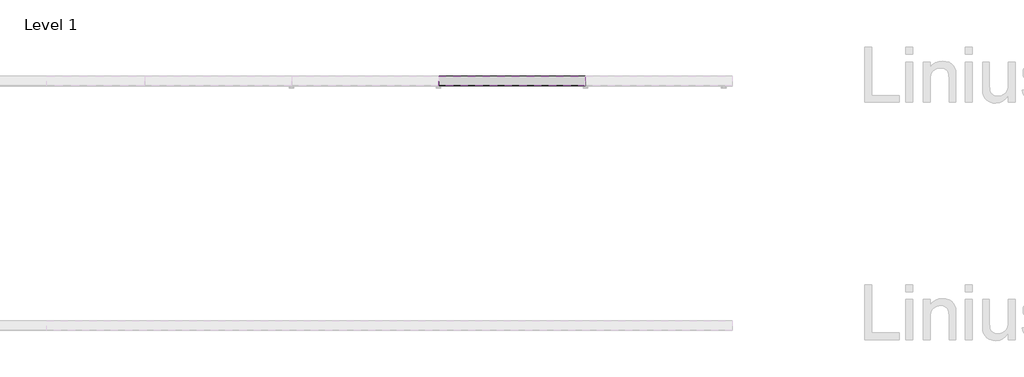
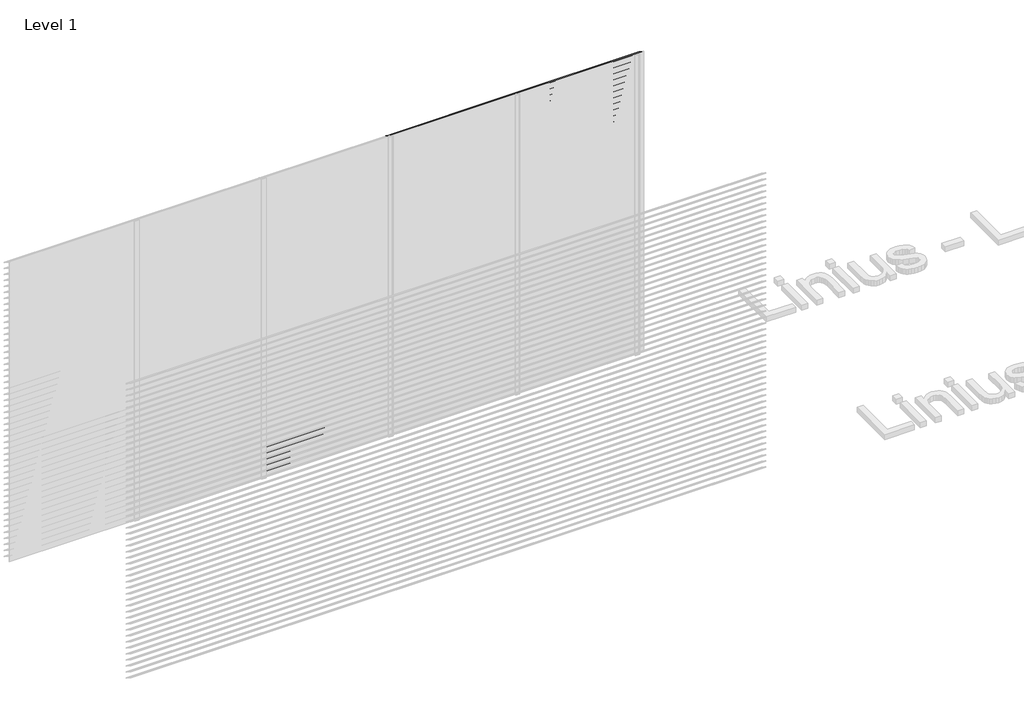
# One storey, part 74 of 153: 84 proxies.
"""IFC4 building model written with IfcOpenShell, lengths in millimetres."""

from ifc_helpers import new_model, si_unit, frame, origin, place, context, project, spatial, polyline, outline, extrude, element, save

model = new_model("IFC4")

# Units and contexts
model_context = context("Model", 3, world=origin())
ifc_project = project(units=[si_unit("LENGTHUNIT", "METRE", prefix="MILLI")], contexts=[model_context])

# Site, building, storey
site = spatial("IfcSite", under=ifc_project)
building = spatial("IfcBuilding", under=site)
storey = spatial("IfcBuildingStorey", under=building, Name="Level 1", Elevation=0.0)

# Proxies
placement = place(None, origin())
element("IfcBuildingElementProxy", 1, Name="Wall Sweeps", at=placement, inside=storey, context=model_context, shape_type="SweptSolid", body=[
    extrude(outline(polyline([(44061.0540136, 246.0), (44061.0540136, 240.0), (44059.8040136, 240.7216933), (44059.8040136, 245.2538091), (43983.0540136, 293.9915103), (43983.0540136, 300.0), (43984.3040136, 300.0), (43984.3040136, 294.7377012), (44061.0540136, 246.0)])), frame((2866.6208097, 0.0, 0.0), z_axis=(1.0, 0.0, 0.0), x_axis=(0.0, 1.0, 0.0)), (0.0, 0.0, 1.0), 1199.9999999),
])
element("IfcBuildingElementProxy", 2, Name="Wall Sweeps", at=placement, inside=storey, context=model_context, shape_type="SweptSolid", body=[
    extrude(outline(polyline([(44061.0540136, 186.0), (44061.0540136, 180.0), (44059.8040136, 180.7216933), (44059.8040136, 185.2538091), (43983.0540136, 233.9915103), (43983.0540136, 240.0), (43984.3040136, 240.0), (43984.3040136, 234.7377012), (44061.0540136, 186.0)])), frame((2866.6208097, 0.0, 0.0), z_axis=(1.0, 0.0, 0.0), x_axis=(0.0, 1.0, 0.0)), (0.0, 0.0, 1.0), 1199.9999999),
])
element("IfcBuildingElementProxy", 3, Name="Wall Sweeps", at=placement, inside=storey, context=model_context, shape_type="SweptSolid", body=[
    extrude(outline(polyline([(44061.0540136, 126.0), (44061.0540136, 120.0), (44059.8040136, 120.7216933), (44059.8040136, 125.2538091), (43983.0540136, 173.9915103), (43983.0540136, 180.0), (43984.3040136, 180.0), (43984.3040136, 174.7377012), (44061.0540136, 126.0)])), frame((2866.6208097, 0.0, 0.0), z_axis=(1.0, 0.0, 0.0), x_axis=(0.0, 1.0, 0.0)), (0.0, 0.0, 1.0), 1199.9999999),
])
element("IfcBuildingElementProxy", 4, Name="Wall Sweeps", at=placement, inside=storey, context=model_context, shape_type="SweptSolid", body=[
    extrude(outline(polyline([(44061.0540136, 66.0), (44061.0540136, 60.0), (44059.8040136, 60.7216933), (44059.8040136, 65.2538091), (43983.0540136, 113.9915103), (43983.0540136, 120.0), (43984.3040136, 120.0), (43984.3040136, 114.7377012), (44061.0540136, 66.0)])), frame((2866.6208097, 0.0, 0.0), z_axis=(1.0, 0.0, 0.0), x_axis=(0.0, 1.0, 0.0)), (0.0, 0.0, 1.0), 1199.9999999),
])
element("IfcBuildingElementProxy", 5, Name="Wall Sweeps", at=placement, inside=storey, context=model_context, shape_type="SweptSolid", body=[
    extrude(outline(polyline([(44061.0540136, 6.0), (44061.0540136, 0.0), (44059.8040136, 0.7216933), (44059.8040136, 5.2538091), (43983.0540136, 53.9915103), (43983.0540136, 60.0), (43984.3040136, 60.0), (43984.3040136, 54.7377012), (44061.0540136, 6.0)])), frame((2866.6208097, 0.0, 0.0), z_axis=(1.0, 0.0, 0.0), x_axis=(0.0, 1.0, 0.0)), (0.0, 0.0, 1.0), 1199.9999999),
])
element("IfcBuildingElementProxy", 6, Name="Wall Sweeps", at=placement, inside=storey, context=model_context, shape_type="SweptSolid", body=[
    extrude(outline(polyline([(44061.0540136, 2946.0), (44061.0540136, 2940.0), (44059.8040136, 2940.7216933), (44059.8040136, 2945.2538091), (43983.0540136, 2993.9915103), (43983.0540136, 3000.0), (43984.3040136, 3000.0), (43984.3040136, 2994.7377012), (44061.0540136, 2946.0)])), frame((4066.6208096, 0.0, 0.0), z_axis=(1.0, 0.0, 0.0), x_axis=(0.0, 1.0, 0.0)), (0.0, 0.0, 1.0), 1199.9999999),
])
element("IfcBuildingElementProxy", 7, Name="Wall Sweeps", at=placement, inside=storey, context=model_context, shape_type="SweptSolid", body=[
    extrude(outline(polyline([(44061.0540136, 2886.0), (44061.0540136, 2880.0), (44059.8040136, 2880.7216933), (44059.8040136, 2885.2538091), (43983.0540136, 2933.9915103), (43983.0540136, 2940.0), (43984.3040136, 2940.0), (43984.3040136, 2934.7377012), (44061.0540136, 2886.0)])), frame((4066.6208096, 0.0, 0.0), z_axis=(1.0, 0.0, 0.0), x_axis=(0.0, 1.0, 0.0)), (0.0, 0.0, 1.0), 1199.9999999),
])
element("IfcBuildingElementProxy", 8, Name="Wall Sweeps", at=placement, inside=storey, context=model_context, shape_type="SweptSolid", body=[
    extrude(outline(polyline([(44061.0540136, 2826.0), (44061.0540136, 2820.0), (44059.8040136, 2820.7216933), (44059.8040136, 2825.2538091), (43983.0540136, 2873.9915103), (43983.0540136, 2880.0), (43984.3040136, 2880.0), (43984.3040136, 2874.7377012), (44061.0540136, 2826.0)])), frame((4066.6208096, 0.0, 0.0), z_axis=(1.0, 0.0, 0.0), x_axis=(0.0, 1.0, 0.0)), (0.0, 0.0, 1.0), 1199.9999999),
])
element("IfcBuildingElementProxy", 9, Name="Wall Sweeps", at=placement, inside=storey, context=model_context, shape_type="SweptSolid", body=[
    extrude(outline(polyline([(44061.0540136, 2766.0), (44061.0540136, 2760.0), (44059.8040136, 2760.7216933), (44059.8040136, 2765.2538091), (43983.0540136, 2813.9915103), (43983.0540136, 2820.0), (43984.3040136, 2820.0), (43984.3040136, 2814.7377012), (44061.0540136, 2766.0)])), frame((4066.6208096, 0.0, 0.0), z_axis=(1.0, 0.0, 0.0), x_axis=(0.0, 1.0, 0.0)), (0.0, 0.0, 1.0), 1199.9999999),
])
element("IfcBuildingElementProxy", 10, Name="Wall Sweeps", at=placement, inside=storey, context=model_context, shape_type="SweptSolid", body=[
    extrude(outline(polyline([(44061.0540136, 2706.0), (44061.0540136, 2700.0), (44059.8040136, 2700.7216933), (44059.8040136, 2705.2538091), (43983.0540136, 2753.9915103), (43983.0540136, 2760.0), (43984.3040136, 2760.0), (43984.3040136, 2754.7377012), (44061.0540136, 2706.0)])), frame((4066.6208096, 0.0, 0.0), z_axis=(1.0, 0.0, 0.0), x_axis=(0.0, 1.0, 0.0)), (0.0, 0.0, 1.0), 1199.9999999),
])
element("IfcBuildingElementProxy", 11, Name="Wall Sweeps", at=placement, inside=storey, context=model_context, shape_type="SweptSolid", body=[
    extrude(outline(polyline([(44061.0540136, 2646.0), (44061.0540136, 2640.0), (44059.8040136, 2640.7216933), (44059.8040136, 2645.2538091), (43983.0540136, 2693.9915103), (43983.0540136, 2700.0), (43984.3040136, 2700.0), (43984.3040136, 2694.7377012), (44061.0540136, 2646.0)])), frame((4066.6208096, 0.0, 0.0), z_axis=(1.0, 0.0, 0.0), x_axis=(0.0, 1.0, 0.0)), (0.0, 0.0, 1.0), 1199.9999999),
])
element("IfcBuildingElementProxy", 12, Name="Wall Sweeps", at=placement, inside=storey, context=model_context, shape_type="SweptSolid", body=[
    extrude(outline(polyline([(44061.0540136, 2586.0), (44061.0540136, 2580.0), (44059.8040136, 2580.7216933), (44059.8040136, 2585.2538091), (43983.0540136, 2633.9915103), (43983.0540136, 2640.0), (43984.3040136, 2640.0), (43984.3040136, 2634.7377012), (44061.0540136, 2586.0)])), frame((4066.6208096, 0.0, 0.0), z_axis=(1.0, 0.0, 0.0), x_axis=(0.0, 1.0, 0.0)), (0.0, 0.0, 1.0), 1199.9999999),
])
element("IfcBuildingElementProxy", 13, Name="Wall Sweeps", at=placement, inside=storey, context=model_context, shape_type="SweptSolid", body=[
    extrude(outline(polyline([(44061.0540136, 2526.0), (44061.0540136, 2520.0), (44059.8040136, 2520.7216933), (44059.8040136, 2525.2538091), (43983.0540136, 2573.9915103), (43983.0540136, 2580.0), (43984.3040136, 2580.0), (43984.3040136, 2574.7377012), (44061.0540136, 2526.0)])), frame((4066.6208096, 0.0, 0.0), z_axis=(1.0, 0.0, 0.0), x_axis=(0.0, 1.0, 0.0)), (0.0, 0.0, 1.0), 1199.9999999),
])
element("IfcBuildingElementProxy", 14, Name="Wall Sweeps", at=placement, inside=storey, context=model_context, shape_type="SweptSolid", body=[
    extrude(outline(polyline([(44061.0540136, 2466.0), (44061.0540136, 2460.0), (44059.8040136, 2460.7216933), (44059.8040136, 2465.2538091), (43983.0540136, 2513.9915103), (43983.0540136, 2520.0), (43984.3040136, 2520.0), (43984.3040136, 2514.7377012), (44061.0540136, 2466.0)])), frame((4066.6208096, 0.0, 0.0), z_axis=(1.0, 0.0, 0.0), x_axis=(0.0, 1.0, 0.0)), (0.0, 0.0, 1.0), 1199.9999999),
])
element("IfcBuildingElementProxy", 15, Name="Wall Sweeps", at=placement, inside=storey, context=model_context, shape_type="SweptSolid", body=[
    extrude(outline(polyline([(44061.0540136, 2406.0), (44061.0540136, 2400.0), (44059.8040136, 2400.7216933), (44059.8040136, 2405.2538091), (43983.0540136, 2453.9915103), (43983.0540136, 2460.0), (43984.3040136, 2460.0), (43984.3040136, 2454.7377012), (44061.0540136, 2406.0)])), frame((4066.6208096, 0.0, 0.0), z_axis=(1.0, 0.0, 0.0), x_axis=(0.0, 1.0, 0.0)), (0.0, 0.0, 1.0), 1199.9999999),
])
element("IfcBuildingElementProxy", 16, Name="Wall Sweeps", at=placement, inside=storey, context=model_context, shape_type="SweptSolid", body=[
    extrude(outline(polyline([(44061.0540136, 2346.0), (44061.0540136, 2340.0), (44059.8040136, 2340.7216933), (44059.8040136, 2345.2538091), (43983.0540136, 2393.9915103), (43983.0540136, 2400.0), (43984.3040136, 2400.0), (43984.3040136, 2394.7377012), (44061.0540136, 2346.0)])), frame((4066.6208096, 0.0, 0.0), z_axis=(1.0, 0.0, 0.0), x_axis=(0.0, 1.0, 0.0)), (0.0, 0.0, 1.0), 1199.9999999),
])
element("IfcBuildingElementProxy", 17, Name="Wall Sweeps", at=placement, inside=storey, context=model_context, shape_type="SweptSolid", body=[
    extrude(outline(polyline([(44061.0540136, 2286.0), (44061.0540136, 2280.0), (44059.8040136, 2280.7216933), (44059.8040136, 2285.2538091), (43983.0540136, 2333.9915103), (43983.0540136, 2340.0), (43984.3040136, 2340.0), (43984.3040136, 2334.7377012), (44061.0540136, 2286.0)])), frame((4066.6208096, 0.0, 0.0), z_axis=(1.0, 0.0, 0.0), x_axis=(0.0, 1.0, 0.0)), (0.0, 0.0, 1.0), 1199.9999999),
])
element("IfcBuildingElementProxy", 18, Name="Wall Sweeps", at=placement, inside=storey, context=model_context, shape_type="SweptSolid", body=[
    extrude(outline(polyline([(44061.0540136, 2226.0), (44061.0540136, 2220.0), (44059.8040136, 2220.7216933), (44059.8040136, 2225.2538091), (43983.0540136, 2273.9915103), (43983.0540136, 2280.0), (43984.3040136, 2280.0), (43984.3040136, 2274.7377012), (44061.0540136, 2226.0)])), frame((4066.6208096, 0.0, 0.0), z_axis=(1.0, 0.0, 0.0), x_axis=(0.0, 1.0, 0.0)), (0.0, 0.0, 1.0), 1199.9999999),
])
element("IfcBuildingElementProxy", 19, Name="Wall Sweeps", at=placement, inside=storey, context=model_context, shape_type="SweptSolid", body=[
    extrude(outline(polyline([(44061.0540136, 2166.0), (44061.0540136, 2160.0), (44059.8040136, 2160.7216933), (44059.8040136, 2165.2538091), (43983.0540136, 2213.9915103), (43983.0540136, 2220.0), (43984.3040136, 2220.0), (43984.3040136, 2214.7377012), (44061.0540136, 2166.0)])), frame((4066.6208096, 0.0, 0.0), z_axis=(1.0, 0.0, 0.0), x_axis=(0.0, 1.0, 0.0)), (0.0, 0.0, 1.0), 1199.9999999),
])
element("IfcBuildingElementProxy", 20, Name="Wall Sweeps", at=placement, inside=storey, context=model_context, shape_type="SweptSolid", body=[
    extrude(outline(polyline([(44061.0540136, 2106.0), (44061.0540136, 2100.0), (44059.8040136, 2100.7216933), (44059.8040136, 2105.2538091), (43983.0540136, 2153.9915103), (43983.0540136, 2160.0), (43984.3040136, 2160.0), (43984.3040136, 2154.7377012), (44061.0540136, 2106.0)])), frame((4066.6208096, 0.0, 0.0), z_axis=(1.0, 0.0, 0.0), x_axis=(0.0, 1.0, 0.0)), (0.0, 0.0, 1.0), 1199.9999999),
])
element("IfcBuildingElementProxy", 21, Name="Wall Sweeps", at=placement, inside=storey, context=model_context, shape_type="SweptSolid", body=[
    extrude(outline(polyline([(44061.0540136, 2046.0), (44061.0540136, 2040.0), (44059.8040136, 2040.7216933), (44059.8040136, 2045.2538091), (43983.0540136, 2093.9915103), (43983.0540136, 2100.0), (43984.3040136, 2100.0), (43984.3040136, 2094.7377012), (44061.0540136, 2046.0)])), frame((4066.6208096, 0.0, 0.0), z_axis=(1.0, 0.0, 0.0), x_axis=(0.0, 1.0, 0.0)), (0.0, 0.0, 1.0), 1199.9999999),
])
element("IfcBuildingElementProxy", 22, Name="Wall Sweeps", at=placement, inside=storey, context=model_context, shape_type="SweptSolid", body=[
    extrude(outline(polyline([(44061.0540136, 1986.0), (44061.0540136, 1980.0), (44059.8040136, 1980.7216933), (44059.8040136, 1985.2538091), (43983.0540136, 2033.9915103), (43983.0540136, 2040.0), (43984.3040136, 2040.0), (43984.3040136, 2034.7377012), (44061.0540136, 1986.0)])), frame((4066.6208096, 0.0, 0.0), z_axis=(1.0, 0.0, 0.0), x_axis=(0.0, 1.0, 0.0)), (0.0, 0.0, 1.0), 1199.9999999),
])
element("IfcBuildingElementProxy", 23, Name="Wall Sweeps", at=placement, inside=storey, context=model_context, shape_type="SweptSolid", body=[
    extrude(outline(polyline([(44061.0540136, 1926.0), (44061.0540136, 1920.0), (44059.8040136, 1920.7216933), (44059.8040136, 1925.2538091), (43983.0540136, 1973.9915103), (43983.0540136, 1980.0), (43984.3040136, 1980.0), (43984.3040136, 1974.7377012), (44061.0540136, 1926.0)])), frame((4066.6208096, 0.0, 0.0), z_axis=(1.0, 0.0, 0.0), x_axis=(0.0, 1.0, 0.0)), (0.0, 0.0, 1.0), 1199.9999999),
])
element("IfcBuildingElementProxy", 24, Name="Wall Sweeps", at=placement, inside=storey, context=model_context, shape_type="SweptSolid", body=[
    extrude(outline(polyline([(44061.0540136, 1866.0), (44061.0540136, 1860.0), (44059.8040136, 1860.7216933), (44059.8040136, 1865.2538091), (43983.0540136, 1913.9915103), (43983.0540136, 1920.0), (43984.3040136, 1920.0), (43984.3040136, 1914.7377012), (44061.0540136, 1866.0)])), frame((4066.6208096, 0.0, 0.0), z_axis=(1.0, 0.0, 0.0), x_axis=(0.0, 1.0, 0.0)), (0.0, 0.0, 1.0), 1199.9999999),
])
element("IfcBuildingElementProxy", 25, Name="Wall Sweeps", at=placement, inside=storey, context=model_context, shape_type="SweptSolid", body=[
    extrude(outline(polyline([(44061.0540136, 1806.0), (44061.0540136, 1800.0), (44059.8040136, 1800.7216933), (44059.8040136, 1805.2538091), (43983.0540136, 1853.9915103), (43983.0540136, 1860.0), (43984.3040136, 1860.0), (43984.3040136, 1854.7377012), (44061.0540136, 1806.0)])), frame((4066.6208096, 0.0, 0.0), z_axis=(1.0, 0.0, 0.0), x_axis=(0.0, 1.0, 0.0)), (0.0, 0.0, 1.0), 1199.9999999),
])
element("IfcBuildingElementProxy", 26, Name="Wall Sweeps", at=placement, inside=storey, context=model_context, shape_type="SweptSolid", body=[
    extrude(outline(polyline([(44061.0540136, 1746.0), (44061.0540136, 1740.0), (44059.8040136, 1740.7216933), (44059.8040136, 1745.2538091), (43983.0540136, 1793.9915103), (43983.0540136, 1800.0), (43984.3040136, 1800.0), (43984.3040136, 1794.7377012), (44061.0540136, 1746.0)])), frame((4066.6208096, 0.0, 0.0), z_axis=(1.0, 0.0, 0.0), x_axis=(0.0, 1.0, 0.0)), (0.0, 0.0, 1.0), 1199.9999999),
])
element("IfcBuildingElementProxy", 27, Name="Wall Sweeps", at=placement, inside=storey, context=model_context, shape_type="SweptSolid", body=[
    extrude(outline(polyline([(44061.0540136, 1686.0), (44061.0540136, 1680.0), (44059.8040136, 1680.7216933), (44059.8040136, 1685.2538091), (43983.0540136, 1733.9915103), (43983.0540136, 1740.0), (43984.3040136, 1740.0), (43984.3040136, 1734.7377012), (44061.0540136, 1686.0)])), frame((4066.6208096, 0.0, 0.0), z_axis=(1.0, 0.0, 0.0), x_axis=(0.0, 1.0, 0.0)), (0.0, 0.0, 1.0), 1199.9999999),
])
element("IfcBuildingElementProxy", 28, Name="Wall Sweeps", at=placement, inside=storey, context=model_context, shape_type="SweptSolid", body=[
    extrude(outline(polyline([(44061.0540136, 1626.0), (44061.0540136, 1620.0), (44059.8040136, 1620.7216933), (44059.8040136, 1625.2538091), (43983.0540136, 1673.9915103), (43983.0540136, 1680.0), (43984.3040136, 1680.0), (43984.3040136, 1674.7377012), (44061.0540136, 1626.0)])), frame((4066.6208096, 0.0, 0.0), z_axis=(1.0, 0.0, 0.0), x_axis=(0.0, 1.0, 0.0)), (0.0, 0.0, 1.0), 1199.9999999),
])
element("IfcBuildingElementProxy", 29, Name="Wall Sweeps", at=placement, inside=storey, context=model_context, shape_type="SweptSolid", body=[
    extrude(outline(polyline([(44061.0540136, 1566.0), (44061.0540136, 1560.0), (44059.8040136, 1560.7216933), (44059.8040136, 1565.2538091), (43983.0540136, 1613.9915103), (43983.0540136, 1620.0), (43984.3040136, 1620.0), (43984.3040136, 1614.7377012), (44061.0540136, 1566.0)])), frame((4066.6208096, 0.0, 0.0), z_axis=(1.0, 0.0, 0.0), x_axis=(0.0, 1.0, 0.0)), (0.0, 0.0, 1.0), 1199.9999999),
])
element("IfcBuildingElementProxy", 30, Name="Wall Sweeps", at=placement, inside=storey, context=model_context, shape_type="SweptSolid", body=[
    extrude(outline(polyline([(44061.0540136, 1506.0), (44061.0540136, 1500.0), (44059.8040136, 1500.7216933), (44059.8040136, 1505.2538091), (43983.0540136, 1553.9915103), (43983.0540136, 1560.0), (43984.3040136, 1560.0), (43984.3040136, 1554.7377012), (44061.0540136, 1506.0)])), frame((4066.6208096, 0.0, 0.0), z_axis=(1.0, 0.0, 0.0), x_axis=(0.0, 1.0, 0.0)), (0.0, 0.0, 1.0), 1199.9999999),
])
element("IfcBuildingElementProxy", 31, Name="Wall Sweeps", at=placement, inside=storey, context=model_context, shape_type="SweptSolid", body=[
    extrude(outline(polyline([(44061.0540136, 1446.0), (44061.0540136, 1440.0), (44059.8040136, 1440.7216933), (44059.8040136, 1445.2538091), (43983.0540136, 1493.9915103), (43983.0540136, 1500.0), (43984.3040136, 1500.0), (43984.3040136, 1494.7377012), (44061.0540136, 1446.0)])), frame((4066.6208096, 0.0, 0.0), z_axis=(1.0, 0.0, 0.0), x_axis=(0.0, 1.0, 0.0)), (0.0, 0.0, 1.0), 1199.9999999),
])
element("IfcBuildingElementProxy", 32, Name="Wall Sweeps", at=placement, inside=storey, context=model_context, shape_type="SweptSolid", body=[
    extrude(outline(polyline([(44061.0540136, 1386.0), (44061.0540136, 1380.0), (44059.8040136, 1380.7216933), (44059.8040136, 1385.2538091), (43983.0540136, 1433.9915103), (43983.0540136, 1440.0), (43984.3040136, 1440.0), (43984.3040136, 1434.7377012), (44061.0540136, 1386.0)])), frame((4066.6208096, 0.0, 0.0), z_axis=(1.0, 0.0, 0.0), x_axis=(0.0, 1.0, 0.0)), (0.0, 0.0, 1.0), 1199.9999999),
])
element("IfcBuildingElementProxy", 33, Name="Wall Sweeps", at=placement, inside=storey, context=model_context, shape_type="SweptSolid", body=[
    extrude(outline(polyline([(44061.0540136, 1326.0), (44061.0540136, 1320.0), (44059.8040136, 1320.7216933), (44059.8040136, 1325.2538091), (43983.0540136, 1373.9915103), (43983.0540136, 1380.0), (43984.3040136, 1380.0), (43984.3040136, 1374.7377012), (44061.0540136, 1326.0)])), frame((4066.6208096, 0.0, 0.0), z_axis=(1.0, 0.0, 0.0), x_axis=(0.0, 1.0, 0.0)), (0.0, 0.0, 1.0), 1199.9999999),
])
element("IfcBuildingElementProxy", 34, Name="Wall Sweeps", at=placement, inside=storey, context=model_context, shape_type="SweptSolid", body=[
    extrude(outline(polyline([(44061.0540136, 1266.0), (44061.0540136, 1260.0), (44059.8040136, 1260.7216933), (44059.8040136, 1265.2538091), (43983.0540136, 1313.9915103), (43983.0540136, 1320.0), (43984.3040136, 1320.0), (43984.3040136, 1314.7377012), (44061.0540136, 1266.0)])), frame((4066.6208096, 0.0, 0.0), z_axis=(1.0, 0.0, 0.0), x_axis=(0.0, 1.0, 0.0)), (0.0, 0.0, 1.0), 1199.9999999),
])
element("IfcBuildingElementProxy", 35, Name="Wall Sweeps", at=placement, inside=storey, context=model_context, shape_type="SweptSolid", body=[
    extrude(outline(polyline([(44061.0540136, 1206.0), (44061.0540136, 1200.0), (44059.8040136, 1200.7216933), (44059.8040136, 1205.2538091), (43983.0540136, 1253.9915103), (43983.0540136, 1260.0), (43984.3040136, 1260.0), (43984.3040136, 1254.7377012), (44061.0540136, 1206.0)])), frame((4066.6208096, 0.0, 0.0), z_axis=(1.0, 0.0, 0.0), x_axis=(0.0, 1.0, 0.0)), (0.0, 0.0, 1.0), 1199.9999999),
])
element("IfcBuildingElementProxy", 36, Name="Wall Sweeps", at=placement, inside=storey, context=model_context, shape_type="SweptSolid", body=[
    extrude(outline(polyline([(44061.0540136, 1146.0), (44061.0540136, 1140.0), (44059.8040136, 1140.7216933), (44059.8040136, 1145.2538091), (43983.0540136, 1193.9915103), (43983.0540136, 1200.0), (43984.3040136, 1200.0), (43984.3040136, 1194.7377012), (44061.0540136, 1146.0)])), frame((4066.6208096, 0.0, 0.0), z_axis=(1.0, 0.0, 0.0), x_axis=(0.0, 1.0, 0.0)), (0.0, 0.0, 1.0), 1199.9999999),
])
element("IfcBuildingElementProxy", 37, Name="Wall Sweeps", at=placement, inside=storey, context=model_context, shape_type="SweptSolid", body=[
    extrude(outline(polyline([(44061.0540136, 1086.0), (44061.0540136, 1080.0), (44059.8040136, 1080.7216933), (44059.8040136, 1085.2538091), (43983.0540136, 1133.9915103), (43983.0540136, 1140.0), (43984.3040136, 1140.0), (43984.3040136, 1134.7377012), (44061.0540136, 1086.0)])), frame((4066.6208096, 0.0, 0.0), z_axis=(1.0, 0.0, 0.0), x_axis=(0.0, 1.0, 0.0)), (0.0, 0.0, 1.0), 1199.9999999),
])
element("IfcBuildingElementProxy", 38, Name="Wall Sweeps", at=placement, inside=storey, context=model_context, shape_type="SweptSolid", body=[
    extrude(outline(polyline([(44061.0540136, 1026.0), (44061.0540136, 1020.0), (44059.8040136, 1020.7216933), (44059.8040136, 1025.2538091), (43983.0540136, 1073.9915103), (43983.0540136, 1080.0), (43984.3040136, 1080.0), (43984.3040136, 1074.7377012), (44061.0540136, 1026.0)])), frame((4066.6208096, 0.0, 0.0), z_axis=(1.0, 0.0, 0.0), x_axis=(0.0, 1.0, 0.0)), (0.0, 0.0, 1.0), 1199.9999999),
])
element("IfcBuildingElementProxy", 39, Name="Wall Sweeps", at=placement, inside=storey, context=model_context, shape_type="SweptSolid", body=[
    extrude(outline(polyline([(44061.0540136, 966.0), (44061.0540136, 960.0), (44059.8040136, 960.7216933), (44059.8040136, 965.2538091), (43983.0540136, 1013.9915103), (43983.0540136, 1020.0), (43984.3040136, 1020.0), (43984.3040136, 1014.7377012), (44061.0540136, 966.0)])), frame((4066.6208096, 0.0, 0.0), z_axis=(1.0, 0.0, 0.0), x_axis=(0.0, 1.0, 0.0)), (0.0, 0.0, 1.0), 1199.9999999),
])
element("IfcBuildingElementProxy", 40, Name="Wall Sweeps", at=placement, inside=storey, context=model_context, shape_type="SweptSolid", body=[
    extrude(outline(polyline([(44061.0540136, 906.0), (44061.0540136, 900.0), (44059.8040136, 900.7216933), (44059.8040136, 905.2538091), (43983.0540136, 953.9915103), (43983.0540136, 960.0), (43984.3040136, 960.0), (43984.3040136, 954.7377012), (44061.0540136, 906.0)])), frame((4066.6208096, 0.0, 0.0), z_axis=(1.0, 0.0, 0.0), x_axis=(0.0, 1.0, 0.0)), (0.0, 0.0, 1.0), 1199.9999999),
])
element("IfcBuildingElementProxy", 41, Name="Wall Sweeps", at=placement, inside=storey, context=model_context, shape_type="SweptSolid", body=[
    extrude(outline(polyline([(44061.0540136, 846.0), (44061.0540136, 840.0), (44059.8040136, 840.7216933), (44059.8040136, 845.2538091), (43983.0540136, 893.9915103), (43983.0540136, 900.0), (43984.3040136, 900.0), (43984.3040136, 894.7377012), (44061.0540136, 846.0)])), frame((4066.6208096, 0.0, 0.0), z_axis=(1.0, 0.0, 0.0), x_axis=(0.0, 1.0, 0.0)), (0.0, 0.0, 1.0), 1199.9999999),
])
element("IfcBuildingElementProxy", 42, Name="Wall Sweeps", at=placement, inside=storey, context=model_context, shape_type="SweptSolid", body=[
    extrude(outline(polyline([(44061.0540136, 786.0), (44061.0540136, 780.0), (44059.8040136, 780.7216933), (44059.8040136, 785.2538091), (43983.0540136, 833.9915103), (43983.0540136, 840.0), (43984.3040136, 840.0), (43984.3040136, 834.7377012), (44061.0540136, 786.0)])), frame((4066.6208096, 0.0, 0.0), z_axis=(1.0, 0.0, 0.0), x_axis=(0.0, 1.0, 0.0)), (0.0, 0.0, 1.0), 1199.9999999),
])
element("IfcBuildingElementProxy", 43, Name="Wall Sweeps", at=placement, inside=storey, context=model_context, shape_type="SweptSolid", body=[
    extrude(outline(polyline([(44061.0540136, 726.0), (44061.0540136, 720.0), (44059.8040136, 720.7216933), (44059.8040136, 725.2538091), (43983.0540136, 773.9915103), (43983.0540136, 780.0), (43984.3040136, 780.0), (43984.3040136, 774.7377012), (44061.0540136, 726.0)])), frame((4066.6208096, 0.0, 0.0), z_axis=(1.0, 0.0, 0.0), x_axis=(0.0, 1.0, 0.0)), (0.0, 0.0, 1.0), 1199.9999999),
])
element("IfcBuildingElementProxy", 44, Name="Wall Sweeps", at=placement, inside=storey, context=model_context, shape_type="SweptSolid", body=[
    extrude(outline(polyline([(44061.0540136, 666.0), (44061.0540136, 660.0), (44059.8040136, 660.7216933), (44059.8040136, 665.2538091), (43983.0540136, 713.9915103), (43983.0540136, 720.0), (43984.3040136, 720.0), (43984.3040136, 714.7377012), (44061.0540136, 666.0)])), frame((4066.6208096, 0.0, 0.0), z_axis=(1.0, 0.0, 0.0), x_axis=(0.0, 1.0, 0.0)), (0.0, 0.0, 1.0), 1199.9999999),
])
element("IfcBuildingElementProxy", 45, Name="Wall Sweeps", at=placement, inside=storey, context=model_context, shape_type="SweptSolid", body=[
    extrude(outline(polyline([(44061.0540136, 606.0), (44061.0540136, 600.0), (44059.8040136, 600.7216933), (44059.8040136, 605.2538091), (43983.0540136, 653.9915103), (43983.0540136, 660.0), (43984.3040136, 660.0), (43984.3040136, 654.7377012), (44061.0540136, 606.0)])), frame((4066.6208096, 0.0, 0.0), z_axis=(1.0, 0.0, 0.0), x_axis=(0.0, 1.0, 0.0)), (0.0, 0.0, 1.0), 1199.9999999),
])
element("IfcBuildingElementProxy", 46, Name="Wall Sweeps", at=placement, inside=storey, context=model_context, shape_type="SweptSolid", body=[
    extrude(outline(polyline([(44061.0540136, 546.0), (44061.0540136, 540.0), (44059.8040136, 540.7216933), (44059.8040136, 545.2538091), (43983.0540136, 593.9915103), (43983.0540136, 600.0), (43984.3040136, 600.0), (43984.3040136, 594.7377012), (44061.0540136, 546.0)])), frame((4066.6208096, 0.0, 0.0), z_axis=(1.0, 0.0, 0.0), x_axis=(0.0, 1.0, 0.0)), (0.0, 0.0, 1.0), 1199.9999999),
])
element("IfcBuildingElementProxy", 47, Name="Wall Sweeps", at=placement, inside=storey, context=model_context, shape_type="SweptSolid", body=[
    extrude(outline(polyline([(44061.0540136, 486.0), (44061.0540136, 480.0), (44059.8040136, 480.7216933), (44059.8040136, 485.2538091), (43983.0540136, 533.9915103), (43983.0540136, 540.0), (43984.3040136, 540.0), (43984.3040136, 534.7377012), (44061.0540136, 486.0)])), frame((4066.6208096, 0.0, 0.0), z_axis=(1.0, 0.0, 0.0), x_axis=(0.0, 1.0, 0.0)), (0.0, 0.0, 1.0), 1199.9999999),
])
element("IfcBuildingElementProxy", 48, Name="Wall Sweeps", at=placement, inside=storey, context=model_context, shape_type="SweptSolid", body=[
    extrude(outline(polyline([(44061.0540136, 426.0), (44061.0540136, 420.0), (44059.8040136, 420.7216933), (44059.8040136, 425.2538091), (43983.0540136, 473.9915103), (43983.0540136, 480.0), (43984.3040136, 480.0), (43984.3040136, 474.7377012), (44061.0540136, 426.0)])), frame((4066.6208096, 0.0, 0.0), z_axis=(1.0, 0.0, 0.0), x_axis=(0.0, 1.0, 0.0)), (0.0, 0.0, 1.0), 1199.9999999),
])
element("IfcBuildingElementProxy", 49, Name="Wall Sweeps", at=placement, inside=storey, context=model_context, shape_type="SweptSolid", body=[
    extrude(outline(polyline([(44061.0540136, 366.0), (44061.0540136, 360.0), (44059.8040136, 360.7216933), (44059.8040136, 365.2538091), (43983.0540136, 413.9915103), (43983.0540136, 420.0), (43984.3040136, 420.0), (43984.3040136, 414.7377012), (44061.0540136, 366.0)])), frame((4066.6208096, 0.0, 0.0), z_axis=(1.0, 0.0, 0.0), x_axis=(0.0, 1.0, 0.0)), (0.0, 0.0, 1.0), 1199.9999999),
])
element("IfcBuildingElementProxy", 50, Name="Wall Sweeps", at=placement, inside=storey, context=model_context, shape_type="SweptSolid", body=[
    extrude(outline(polyline([(44061.0540136, 306.0), (44061.0540136, 300.0), (44059.8040136, 300.7216933), (44059.8040136, 305.2538091), (43983.0540136, 353.9915103), (43983.0540136, 360.0), (43984.3040136, 360.0), (43984.3040136, 354.7377012), (44061.0540136, 306.0)])), frame((4066.6208096, 0.0, 0.0), z_axis=(1.0, 0.0, 0.0), x_axis=(0.0, 1.0, 0.0)), (0.0, 0.0, 1.0), 1199.9999999),
])
element("IfcBuildingElementProxy", 51, Name="Wall Sweeps", at=placement, inside=storey, context=model_context, shape_type="SweptSolid", body=[
    extrude(outline(polyline([(44061.0540136, 246.0), (44061.0540136, 240.0), (44059.8040136, 240.7216933), (44059.8040136, 245.2538091), (43983.0540136, 293.9915103), (43983.0540136, 300.0), (43984.3040136, 300.0), (43984.3040136, 294.7377012), (44061.0540136, 246.0)])), frame((4066.6208096, 0.0, 0.0), z_axis=(1.0, 0.0, 0.0), x_axis=(0.0, 1.0, 0.0)), (0.0, 0.0, 1.0), 1199.9999999),
])
element("IfcBuildingElementProxy", 52, Name="Wall Sweeps", at=placement, inside=storey, context=model_context, shape_type="SweptSolid", body=[
    extrude(outline(polyline([(44061.0540136, 186.0), (44061.0540136, 180.0), (44059.8040136, 180.7216933), (44059.8040136, 185.2538091), (43983.0540136, 233.9915103), (43983.0540136, 240.0), (43984.3040136, 240.0), (43984.3040136, 234.7377012), (44061.0540136, 186.0)])), frame((4066.6208096, 0.0, 0.0), z_axis=(1.0, 0.0, 0.0), x_axis=(0.0, 1.0, 0.0)), (0.0, 0.0, 1.0), 1199.9999999),
])
element("IfcBuildingElementProxy", 53, Name="Wall Sweeps", at=placement, inside=storey, context=model_context, shape_type="SweptSolid", body=[
    extrude(outline(polyline([(44061.0540136, 126.0), (44061.0540136, 120.0), (44059.8040136, 120.7216933), (44059.8040136, 125.2538091), (43983.0540136, 173.9915103), (43983.0540136, 180.0), (43984.3040136, 180.0), (43984.3040136, 174.7377012), (44061.0540136, 126.0)])), frame((4066.6208096, 0.0, 0.0), z_axis=(1.0, 0.0, 0.0), x_axis=(0.0, 1.0, 0.0)), (0.0, 0.0, 1.0), 1199.9999999),
])
element("IfcBuildingElementProxy", 54, Name="Wall Sweeps", at=placement, inside=storey, context=model_context, shape_type="SweptSolid", body=[
    extrude(outline(polyline([(44061.0540136, 66.0), (44061.0540136, 60.0), (44059.8040136, 60.7216933), (44059.8040136, 65.2538091), (43983.0540136, 113.9915103), (43983.0540136, 120.0), (43984.3040136, 120.0), (43984.3040136, 114.7377012), (44061.0540136, 66.0)])), frame((4066.6208096, 0.0, 0.0), z_axis=(1.0, 0.0, 0.0), x_axis=(0.0, 1.0, 0.0)), (0.0, 0.0, 1.0), 1199.9999999),
])
element("IfcBuildingElementProxy", 55, Name="Wall Sweeps", at=placement, inside=storey, context=model_context, shape_type="SweptSolid", body=[
    extrude(outline(polyline([(44061.0540136, 6.0), (44061.0540136, 0.0), (44059.8040136, 0.7216933), (44059.8040136, 5.2538091), (43983.0540136, 53.9915103), (43983.0540136, 60.0), (43984.3040136, 60.0), (43984.3040136, 54.7377012), (44061.0540136, 6.0)])), frame((4066.6208096, 0.0, 0.0), z_axis=(1.0, 0.0, 0.0), x_axis=(0.0, 1.0, 0.0)), (0.0, 0.0, 1.0), 1199.9999999),
])
element("IfcBuildingElementProxy", 56, Name="Wall Sweeps", at=placement, inside=storey, context=model_context, shape_type="SweptSolid", body=[
    extrude(outline(polyline([(44061.0540136, 2946.0), (44061.0540136, 2940.0), (44059.8040136, 2940.7216933), (44059.8040136, 2945.2538091), (43983.0540136, 2993.9915103), (43983.0540136, 3000.0), (43984.3040136, 3000.0), (43984.3040136, 2994.7377012), (44061.0540136, 2946.0)])), frame((5266.6208095, 0.0, 0.0), z_axis=(1.0, 0.0, 0.0), x_axis=(0.0, 1.0, 0.0)), (0.0, 0.0, 1.0), 1200.0000002),
])
element("IfcBuildingElementProxy", 57, Name="Wall Sweeps", at=placement, inside=storey, context=model_context, shape_type="SweptSolid", body=[
    extrude(outline(polyline([(44061.0540136, 2886.0), (44061.0540136, 2880.0), (44059.8040136, 2880.7216933), (44059.8040136, 2885.2538091), (43983.0540136, 2933.9915103), (43983.0540136, 2940.0), (43984.3040136, 2940.0), (43984.3040136, 2934.7377012), (44061.0540136, 2886.0)])), frame((5266.6208095, 0.0, 0.0), z_axis=(1.0, 0.0, 0.0), x_axis=(0.0, 1.0, 0.0)), (0.0, 0.0, 1.0), 1200.0000002),
])
element("IfcBuildingElementProxy", 58, Name="Wall Sweeps", at=placement, inside=storey, context=model_context, shape_type="SweptSolid", body=[
    extrude(outline(polyline([(44061.0540136, 2826.0), (44061.0540136, 2820.0), (44059.8040136, 2820.7216933), (44059.8040136, 2825.2538091), (43983.0540136, 2873.9915103), (43983.0540136, 2880.0), (43984.3040136, 2880.0), (43984.3040136, 2874.7377012), (44061.0540136, 2826.0)])), frame((5266.6208095, 0.0, 0.0), z_axis=(1.0, 0.0, 0.0), x_axis=(0.0, 1.0, 0.0)), (0.0, 0.0, 1.0), 1200.0000002),
])
element("IfcBuildingElementProxy", 59, Name="Wall Sweeps", at=placement, inside=storey, context=model_context, shape_type="SweptSolid", body=[
    extrude(outline(polyline([(44061.0540136, 2766.0), (44061.0540136, 2760.0), (44059.8040136, 2760.7216933), (44059.8040136, 2765.2538091), (43983.0540136, 2813.9915103), (43983.0540136, 2820.0), (43984.3040136, 2820.0), (43984.3040136, 2814.7377012), (44061.0540136, 2766.0)])), frame((5266.6208095, 0.0, 0.0), z_axis=(1.0, 0.0, 0.0), x_axis=(0.0, 1.0, 0.0)), (0.0, 0.0, 1.0), 1200.0000002),
])
element("IfcBuildingElementProxy", 60, Name="Wall Sweeps", at=placement, inside=storey, context=model_context, shape_type="SweptSolid", body=[
    extrude(outline(polyline([(44061.0540136, 2706.0), (44061.0540136, 2700.0), (44059.8040136, 2700.7216933), (44059.8040136, 2705.2538091), (43983.0540136, 2753.9915103), (43983.0540136, 2760.0), (43984.3040136, 2760.0), (43984.3040136, 2754.7377012), (44061.0540136, 2706.0)])), frame((5266.6208095, 0.0, 0.0), z_axis=(1.0, 0.0, 0.0), x_axis=(0.0, 1.0, 0.0)), (0.0, 0.0, 1.0), 1200.0000002),
])
element("IfcBuildingElementProxy", 61, Name="Wall Sweeps", at=placement, inside=storey, context=model_context, shape_type="SweptSolid", body=[
    extrude(outline(polyline([(44061.0540136, 2646.0), (44061.0540136, 2640.0), (44059.8040136, 2640.7216933), (44059.8040136, 2645.2538091), (43983.0540136, 2693.9915103), (43983.0540136, 2700.0), (43984.3040136, 2700.0), (43984.3040136, 2694.7377012), (44061.0540136, 2646.0)])), frame((5266.6208095, 0.0, 0.0), z_axis=(1.0, 0.0, 0.0), x_axis=(0.0, 1.0, 0.0)), (0.0, 0.0, 1.0), 1200.0000002),
])
element("IfcBuildingElementProxy", 62, Name="Wall Sweeps", at=placement, inside=storey, context=model_context, shape_type="SweptSolid", body=[
    extrude(outline(polyline([(44061.0540136, 2586.0), (44061.0540136, 2580.0), (44059.8040136, 2580.7216933), (44059.8040136, 2585.2538091), (43983.0540136, 2633.9915103), (43983.0540136, 2640.0), (43984.3040136, 2640.0), (43984.3040136, 2634.7377012), (44061.0540136, 2586.0)])), frame((5266.6208095, 0.0, 0.0), z_axis=(1.0, 0.0, 0.0), x_axis=(0.0, 1.0, 0.0)), (0.0, 0.0, 1.0), 1200.0000002),
])
element("IfcBuildingElementProxy", 63, Name="Wall Sweeps", at=placement, inside=storey, context=model_context, shape_type="SweptSolid", body=[
    extrude(outline(polyline([(44061.0540136, 2526.0), (44061.0540136, 2520.0), (44059.8040136, 2520.7216933), (44059.8040136, 2525.2538091), (43983.0540136, 2573.9915103), (43983.0540136, 2580.0), (43984.3040136, 2580.0), (43984.3040136, 2574.7377012), (44061.0540136, 2526.0)])), frame((5266.6208095, 0.0, 0.0), z_axis=(1.0, 0.0, 0.0), x_axis=(0.0, 1.0, 0.0)), (0.0, 0.0, 1.0), 1200.0000002),
])
element("IfcBuildingElementProxy", 64, Name="Wall Sweeps", at=placement, inside=storey, context=model_context, shape_type="SweptSolid", body=[
    extrude(outline(polyline([(44061.0540136, 2466.0), (44061.0540136, 2460.0), (44059.8040136, 2460.7216933), (44059.8040136, 2465.2538091), (43983.0540136, 2513.9915103), (43983.0540136, 2520.0), (43984.3040136, 2520.0), (43984.3040136, 2514.7377012), (44061.0540136, 2466.0)])), frame((5266.6208095, 0.0, 0.0), z_axis=(1.0, 0.0, 0.0), x_axis=(0.0, 1.0, 0.0)), (0.0, 0.0, 1.0), 1200.0000002),
])
element("IfcBuildingElementProxy", 65, Name="Wall Sweeps", at=placement, inside=storey, context=model_context, shape_type="SweptSolid", body=[
    extrude(outline(polyline([(44061.0540136, 2406.0), (44061.0540136, 2400.0), (44059.8040136, 2400.7216933), (44059.8040136, 2405.2538091), (43983.0540136, 2453.9915103), (43983.0540136, 2460.0), (43984.3040136, 2460.0), (43984.3040136, 2454.7377012), (44061.0540136, 2406.0)])), frame((5266.6208095, 0.0, 0.0), z_axis=(1.0, 0.0, 0.0), x_axis=(0.0, 1.0, 0.0)), (0.0, 0.0, 1.0), 1200.0000002),
])
element("IfcBuildingElementProxy", 66, Name="Wall Sweeps", at=placement, inside=storey, context=model_context, shape_type="SweptSolid", body=[
    extrude(outline(polyline([(44061.0540136, 2346.0), (44061.0540136, 2340.0), (44059.8040136, 2340.7216933), (44059.8040136, 2345.2538091), (43983.0540136, 2393.9915103), (43983.0540136, 2400.0), (43984.3040136, 2400.0), (43984.3040136, 2394.7377012), (44061.0540136, 2346.0)])), frame((5266.6208095, 0.0, 0.0), z_axis=(1.0, 0.0, 0.0), x_axis=(0.0, 1.0, 0.0)), (0.0, 0.0, 1.0), 1200.0000002),
])
element("IfcBuildingElementProxy", 67, Name="Wall Sweeps", at=placement, inside=storey, context=model_context, shape_type="SweptSolid", body=[
    extrude(outline(polyline([(44061.0540136, 2286.0), (44061.0540136, 2280.0), (44059.8040136, 2280.7216933), (44059.8040136, 2285.2538091), (43983.0540136, 2333.9915103), (43983.0540136, 2340.0), (43984.3040136, 2340.0), (43984.3040136, 2334.7377012), (44061.0540136, 2286.0)])), frame((5266.6208095, 0.0, 0.0), z_axis=(1.0, 0.0, 0.0), x_axis=(0.0, 1.0, 0.0)), (0.0, 0.0, 1.0), 1200.0000002),
])
element("IfcBuildingElementProxy", 68, Name="Wall Sweeps", at=placement, inside=storey, context=model_context, shape_type="SweptSolid", body=[
    extrude(outline(polyline([(44061.0540136, 2226.0), (44061.0540136, 2220.0), (44059.8040136, 2220.7216933), (44059.8040136, 2225.2538091), (43983.0540136, 2273.9915103), (43983.0540136, 2280.0), (43984.3040136, 2280.0), (43984.3040136, 2274.7377012), (44061.0540136, 2226.0)])), frame((5266.6208095, 0.0, 0.0), z_axis=(1.0, 0.0, 0.0), x_axis=(0.0, 1.0, 0.0)), (0.0, 0.0, 1.0), 1200.0000002),
])
element("IfcBuildingElementProxy", 69, Name="Wall Sweeps", at=placement, inside=storey, context=model_context, shape_type="SweptSolid", body=[
    extrude(outline(polyline([(44061.0540136, 2166.0), (44061.0540136, 2160.0), (44059.8040136, 2160.7216933), (44059.8040136, 2165.2538091), (43983.0540136, 2213.9915103), (43983.0540136, 2220.0), (43984.3040136, 2220.0), (43984.3040136, 2214.7377012), (44061.0540136, 2166.0)])), frame((5266.6208095, 0.0, 0.0), z_axis=(1.0, 0.0, 0.0), x_axis=(0.0, 1.0, 0.0)), (0.0, 0.0, 1.0), 1200.0000002),
])
element("IfcBuildingElementProxy", 70, Name="Wall Sweeps", at=placement, inside=storey, context=model_context, shape_type="SweptSolid", body=[
    extrude(outline(polyline([(44061.0540136, 2106.0), (44061.0540136, 2100.0), (44059.8040136, 2100.7216933), (44059.8040136, 2105.2538091), (43983.0540136, 2153.9915103), (43983.0540136, 2160.0), (43984.3040136, 2160.0), (43984.3040136, 2154.7377012), (44061.0540136, 2106.0)])), frame((5266.6208095, 0.0, 0.0), z_axis=(1.0, 0.0, 0.0), x_axis=(0.0, 1.0, 0.0)), (0.0, 0.0, 1.0), 1200.0000002),
])
element("IfcBuildingElementProxy", 71, Name="Wall Sweeps", at=placement, inside=storey, context=model_context, shape_type="SweptSolid", body=[
    extrude(outline(polyline([(44061.0540136, 2046.0), (44061.0540136, 2040.0), (44059.8040136, 2040.7216933), (44059.8040136, 2045.2538091), (43983.0540136, 2093.9915103), (43983.0540136, 2100.0), (43984.3040136, 2100.0), (43984.3040136, 2094.7377012), (44061.0540136, 2046.0)])), frame((5266.6208095, 0.0, 0.0), z_axis=(1.0, 0.0, 0.0), x_axis=(0.0, 1.0, 0.0)), (0.0, 0.0, 1.0), 1200.0000002),
])
element("IfcBuildingElementProxy", 72, Name="Wall Sweeps", at=placement, inside=storey, context=model_context, shape_type="SweptSolid", body=[
    extrude(outline(polyline([(44061.0540136, 1986.0), (44061.0540136, 1980.0), (44059.8040136, 1980.7216933), (44059.8040136, 1985.2538091), (43983.0540136, 2033.9915103), (43983.0540136, 2040.0), (43984.3040136, 2040.0), (43984.3040136, 2034.7377012), (44061.0540136, 1986.0)])), frame((5266.6208095, 0.0, 0.0), z_axis=(1.0, 0.0, 0.0), x_axis=(0.0, 1.0, 0.0)), (0.0, 0.0, 1.0), 1200.0000002),
])
element("IfcBuildingElementProxy", 73, Name="Wall Sweeps", at=placement, inside=storey, context=model_context, shape_type="SweptSolid", body=[
    extrude(outline(polyline([(44061.0540136, 1926.0), (44061.0540136, 1920.0), (44059.8040136, 1920.7216933), (44059.8040136, 1925.2538091), (43983.0540136, 1973.9915103), (43983.0540136, 1980.0), (43984.3040136, 1980.0), (43984.3040136, 1974.7377012), (44061.0540136, 1926.0)])), frame((5266.6208095, 0.0, 0.0), z_axis=(1.0, 0.0, 0.0), x_axis=(0.0, 1.0, 0.0)), (0.0, 0.0, 1.0), 1200.0000002),
])
element("IfcBuildingElementProxy", 74, Name="Wall Sweeps", at=placement, inside=storey, context=model_context, shape_type="SweptSolid", body=[
    extrude(outline(polyline([(44061.0540136, 1866.0), (44061.0540136, 1860.0), (44059.8040136, 1860.7216933), (44059.8040136, 1865.2538091), (43983.0540136, 1913.9915103), (43983.0540136, 1920.0), (43984.3040136, 1920.0), (43984.3040136, 1914.7377012), (44061.0540136, 1866.0)])), frame((5266.6208095, 0.0, 0.0), z_axis=(1.0, 0.0, 0.0), x_axis=(0.0, 1.0, 0.0)), (0.0, 0.0, 1.0), 1200.0000002),
])
element("IfcBuildingElementProxy", 75, Name="Wall Sweeps", at=placement, inside=storey, context=model_context, shape_type="SweptSolid", body=[
    extrude(outline(polyline([(44061.0540136, 1806.0), (44061.0540136, 1800.0), (44059.8040136, 1800.7216933), (44059.8040136, 1805.2538091), (43983.0540136, 1853.9915103), (43983.0540136, 1860.0), (43984.3040136, 1860.0), (43984.3040136, 1854.7377012), (44061.0540136, 1806.0)])), frame((5266.6208095, 0.0, 0.0), z_axis=(1.0, 0.0, 0.0), x_axis=(0.0, 1.0, 0.0)), (0.0, 0.0, 1.0), 1200.0000002),
])
element("IfcBuildingElementProxy", 76, Name="Wall Sweeps", at=placement, inside=storey, context=model_context, shape_type="SweptSolid", body=[
    extrude(outline(polyline([(44061.0540136, 1746.0), (44061.0540136, 1740.0), (44059.8040136, 1740.7216933), (44059.8040136, 1745.2538091), (43983.0540136, 1793.9915103), (43983.0540136, 1800.0), (43984.3040136, 1800.0), (43984.3040136, 1794.7377012), (44061.0540136, 1746.0)])), frame((5266.6208095, 0.0, 0.0), z_axis=(1.0, 0.0, 0.0), x_axis=(0.0, 1.0, 0.0)), (0.0, 0.0, 1.0), 1200.0000002),
])
element("IfcBuildingElementProxy", 77, Name="Wall Sweeps", at=placement, inside=storey, context=model_context, shape_type="SweptSolid", body=[
    extrude(outline(polyline([(44061.0540136, 1686.0), (44061.0540136, 1680.0), (44059.8040136, 1680.7216933), (44059.8040136, 1685.2538091), (43983.0540136, 1733.9915103), (43983.0540136, 1740.0), (43984.3040136, 1740.0), (43984.3040136, 1734.7377012), (44061.0540136, 1686.0)])), frame((5266.6208095, 0.0, 0.0), z_axis=(1.0, 0.0, 0.0), x_axis=(0.0, 1.0, 0.0)), (0.0, 0.0, 1.0), 1200.0000002),
])
element("IfcBuildingElementProxy", 78, Name="Wall Sweeps", at=placement, inside=storey, context=model_context, shape_type="SweptSolid", body=[
    extrude(outline(polyline([(44061.0540136, 1626.0), (44061.0540136, 1620.0), (44059.8040136, 1620.7216933), (44059.8040136, 1625.2538091), (43983.0540136, 1673.9915103), (43983.0540136, 1680.0), (43984.3040136, 1680.0), (43984.3040136, 1674.7377012), (44061.0540136, 1626.0)])), frame((5266.6208095, 0.0, 0.0), z_axis=(1.0, 0.0, 0.0), x_axis=(0.0, 1.0, 0.0)), (0.0, 0.0, 1.0), 1200.0000002),
])
element("IfcBuildingElementProxy", 79, Name="Wall Sweeps", at=placement, inside=storey, context=model_context, shape_type="SweptSolid", body=[
    extrude(outline(polyline([(44061.0540136, 1566.0), (44061.0540136, 1560.0), (44059.8040136, 1560.7216933), (44059.8040136, 1565.2538091), (43983.0540136, 1613.9915103), (43983.0540136, 1620.0), (43984.3040136, 1620.0), (43984.3040136, 1614.7377012), (44061.0540136, 1566.0)])), frame((5266.6208095, 0.0, 0.0), z_axis=(1.0, 0.0, 0.0), x_axis=(0.0, 1.0, 0.0)), (0.0, 0.0, 1.0), 1200.0000002),
])
element("IfcBuildingElementProxy", 80, Name="Wall Sweeps", at=placement, inside=storey, context=model_context, shape_type="SweptSolid", body=[
    extrude(outline(polyline([(44061.0540136, 1506.0), (44061.0540136, 1500.0), (44059.8040136, 1500.7216933), (44059.8040136, 1505.2538091), (43983.0540136, 1553.9915103), (43983.0540136, 1560.0), (43984.3040136, 1560.0), (43984.3040136, 1554.7377012), (44061.0540136, 1506.0)])), frame((5266.6208095, 0.0, 0.0), z_axis=(1.0, 0.0, 0.0), x_axis=(0.0, 1.0, 0.0)), (0.0, 0.0, 1.0), 1200.0000002),
])
element("IfcBuildingElementProxy", 81, Name="Wall Sweeps", at=placement, inside=storey, context=model_context, shape_type="SweptSolid", body=[
    extrude(outline(polyline([(44061.0540136, 1446.0), (44061.0540136, 1440.0), (44059.8040136, 1440.7216933), (44059.8040136, 1445.2538091), (43983.0540136, 1493.9915103), (43983.0540136, 1500.0), (43984.3040136, 1500.0), (43984.3040136, 1494.7377012), (44061.0540136, 1446.0)])), frame((5266.6208095, 0.0, 0.0), z_axis=(1.0, 0.0, 0.0), x_axis=(0.0, 1.0, 0.0)), (0.0, 0.0, 1.0), 1200.0000002),
])
element("IfcBuildingElementProxy", 82, Name="Wall Sweeps", at=placement, inside=storey, context=model_context, shape_type="SweptSolid", body=[
    extrude(outline(polyline([(44061.0540136, 1386.0), (44061.0540136, 1380.0), (44059.8040136, 1380.7216933), (44059.8040136, 1385.2538091), (43983.0540136, 1433.9915103), (43983.0540136, 1440.0), (43984.3040136, 1440.0), (43984.3040136, 1434.7377012), (44061.0540136, 1386.0)])), frame((5266.6208095, 0.0, 0.0), z_axis=(1.0, 0.0, 0.0), x_axis=(0.0, 1.0, 0.0)), (0.0, 0.0, 1.0), 1200.0000002),
])
element("IfcBuildingElementProxy", 83, Name="Wall Sweeps", at=placement, inside=storey, context=model_context, shape_type="SweptSolid", body=[
    extrude(outline(polyline([(44061.0540136, 1326.0), (44061.0540136, 1320.0), (44059.8040136, 1320.7216933), (44059.8040136, 1325.2538091), (43983.0540136, 1373.9915103), (43983.0540136, 1380.0), (43984.3040136, 1380.0), (43984.3040136, 1374.7377012), (44061.0540136, 1326.0)])), frame((5266.6208095, 0.0, 0.0), z_axis=(1.0, 0.0, 0.0), x_axis=(0.0, 1.0, 0.0)), (0.0, 0.0, 1.0), 1200.0000002),
])
element("IfcBuildingElementProxy", 84, Name="Wall Sweeps", at=placement, inside=storey, context=model_context, shape_type="SweptSolid", body=[
    extrude(outline(polyline([(44061.0540136, 1266.0), (44061.0540136, 1260.0), (44059.8040136, 1260.7216933), (44059.8040136, 1265.2538091), (43983.0540136, 1313.9915103), (43983.0540136, 1320.0), (43984.3040136, 1320.0), (43984.3040136, 1314.7377012), (44061.0540136, 1266.0)])), frame((5266.6208095, 0.0, 0.0), z_axis=(1.0, 0.0, 0.0), x_axis=(0.0, 1.0, 0.0)), (0.0, 0.0, 1.0), 1200.0000002),
])

save(model, "model.ifc")
